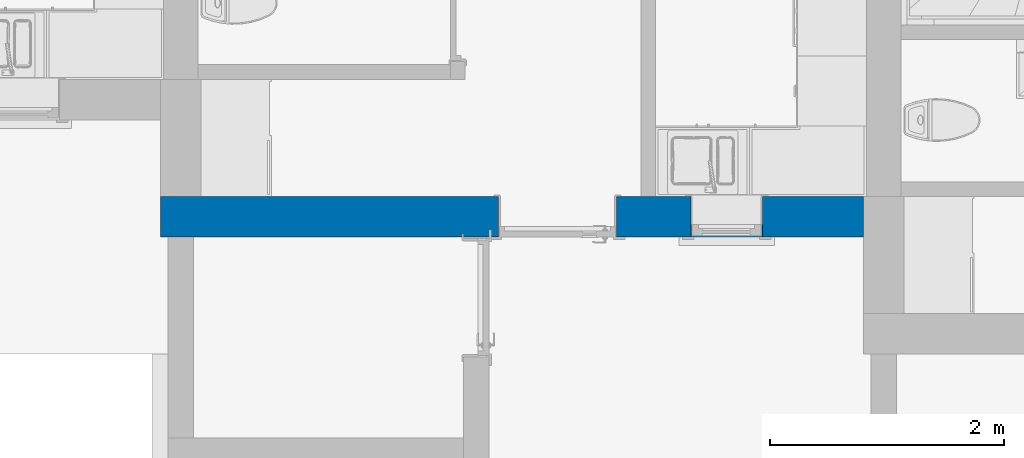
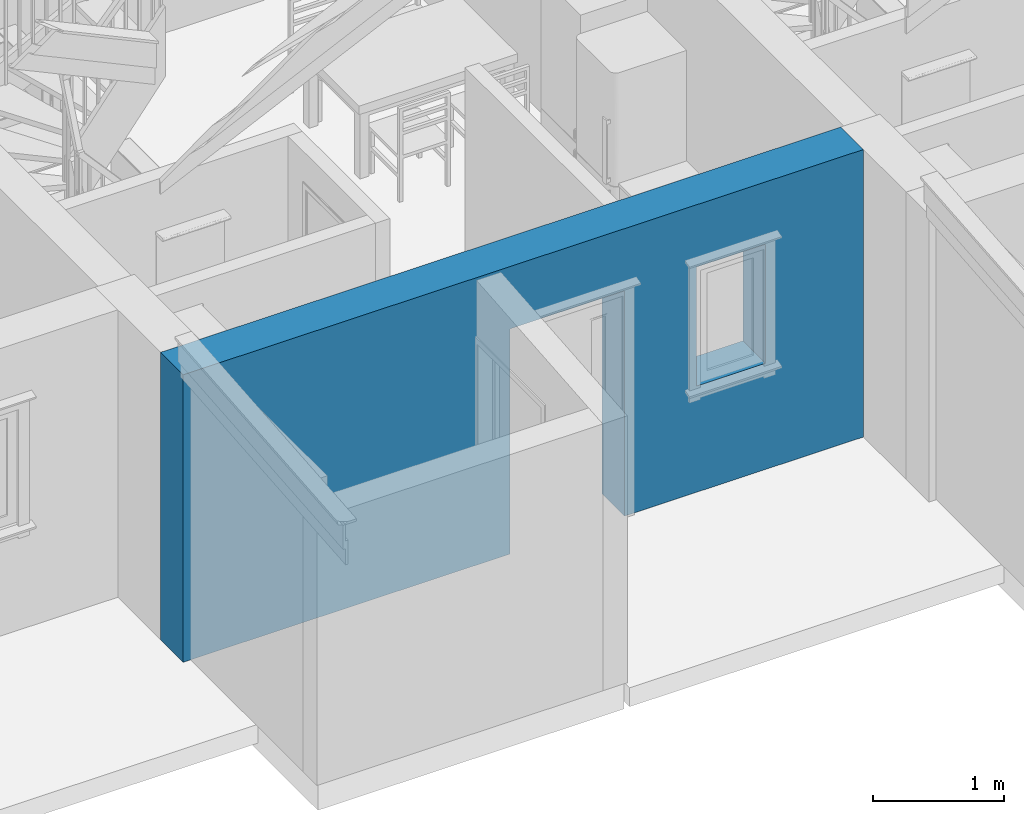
# One storey, part 11 of 65: 1 wall, 2 openings.
"""IFC2X3 building model written with IfcOpenShell, lengths in millimetres."""

from ifc_helpers import new_model, entity, si_unit, converted_unit, direction, frame, frame_2d, origin, place, context, subcontext, project, spatial, rectangle, extrude, material, layer, layer_set, layer_usage, type_object, element, save


model = new_model("IFC2X3")

# Units and contexts
model_context = context("Model", 3, precision=0.01, world=origin(), true_north=direction((0.0, 1.0)))
body_context = subcontext(model_context, "Body", "Model", "MODEL_VIEW")
ifc_project = project(units=[si_unit("LENGTHUNIT", "METRE", prefix="MILLI"), si_unit("AREAUNIT", "SQUARE_METRE"), si_unit("VOLUMEUNIT", "CUBIC_METRE"), converted_unit("PLANEANGLEUNIT", "DEGREE", entity("IfcPlaneAngleMeasure", 0.017453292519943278), si_unit("PLANEANGLEUNIT", "RADIAN"), dimensions=[0, 0, 0, 0, 0, 0, 0])], contexts=[model_context])

# Site, building, storey
site_placement = place(None, origin())
site = spatial("IfcSite", under=ifc_project, at=site_placement, Name="Default", CompositionType="ELEMENT")
building_placement = place(site_placement, origin())
building = spatial("IfcBuilding", under=site, at=building_placement, CompositionType="ELEMENT")
storey_placement = place(building_placement, origin())
storey = spatial("IfcBuildingStorey", under=building, at=storey_placement, Name="Et. 1", CompositionType="ELEMENT", Elevation=0.0)

# Wall, openings
ifc_material_1 = material(Name="Vegg - Stående Kledning_smal - HVIT")
ifc_layer_1 = layer(ifc_material_1, 19.0)
ifc_material_2 = material(Name="Vegg - Utlekting")
ifc_layer_2 = layer(ifc_material_2, 36.0)
ifc_layer_3 = layer(ifc_material_2, 23.0)
ifc_material_3 = material(Name="Vegg - Gips - GU")
ifc_layer_4 = layer(ifc_material_3, 9.0)
ifc_material_4 = material(Name="Vegg - Stender - Isolert")
ifc_layer_5 = layer(ifc_material_4, 198.0)
ifc_material_5 = material(Name="Vegg - Påforing - Isolert")
ifc_layer_6 = layer(ifc_material_5, 48.0)
ifc_material_6 = material(Name="Vegg - Gips - Hvit")
ifc_layer_7 = layer(ifc_material_6, 13.000000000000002)
ifc_layer_set = layer_set([ifc_layer_1, ifc_layer_2, ifc_layer_3, ifc_layer_4, ifc_layer_5, ifc_layer_6, ifc_layer_7], Name="Basic Wall:23-Kv(sm)TIG-19_36_23_9_198_48_13")
ifc_layer_usage = layer_usage(ifc_layer_set, "AXIS2", "NEGATIVE", 173.0)
wall_type = type_object("IfcWallType", Name="Basic Wall:23-Kv(sm)TIG-19_36_23_9_198_48_13", PredefinedType="STANDARD", material=ifc_layer_set)
wall_placement = place(storey_placement, frame((28005.009586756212, 9581.180957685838, 0.0), z_axis=(0.0, 0.0, 1.0), x_axis=(-1.0, 0.0, 0.0)))
wall = element("IfcWallStandardCase", 1, at=wall_placement, inside=storey, type_object=wall_type, material=ifc_layer_usage, Name="Basic Wall:23-Kv(sm)TIG-19_36_23_9_198_48_13", context=body_context, shape_type="SweptSolid", body=[
    extrude(rectangle(XDim=6000.000000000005, YDim=346.0000000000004, at=frame_2d((3000.0000000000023, -5.400124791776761e-13), x_axis=(-1.0, 0.0))), origin(), (0.0, 0.0, 1.0), 2681.0),
])
opening_1_placement = place(wall_placement, frame((2106.499999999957, -173.0, 0.0)))
element("IfcOpeningElement", 2, at=opening_1_placement, cuts=wall, Name="YD 1 Glassfelt omramming:10x21M:1", ObjectType="Opening", context=body_context, shape_type="SweptSolid", body=[
    extrude(rectangle(XDim=1010.000000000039, YDim=2100.000000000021, at=frame_2d((1050.0000000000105, 505.0000000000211), x_axis=(0.0, 1.0))), frame((0.0, 0.0, 0.0), z_axis=(0.0, 1.0, 0.0), x_axis=(0.0, 0.0, 1.0)), (0.0, 0.0, 1.0), 346.0),
])
opening_2_placement = place(wall_placement, frame((863.0, -173.0, 990.0)))
element("IfcOpeningElement", 3, at=opening_2_placement, cuts=wall, Name="Hel Rute Åpningsvindu m omramming:6x11M:1", ObjectType="Opening", context=body_context, shape_type="SweptSolid", body=[
    extrude(rectangle(XDim=609.9999999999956, YDim=1109.9999999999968, at=frame_2d((554.9999999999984, 304.9999999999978), x_axis=(0.0, -1.0))), frame((0.0, 0.0, 0.0), z_axis=(0.0, 1.0, 0.0), x_axis=(0.0, 0.0, 1.0)), (0.0, 0.0, 1.0), 346.0),
])

save(model, "model.ifc")
